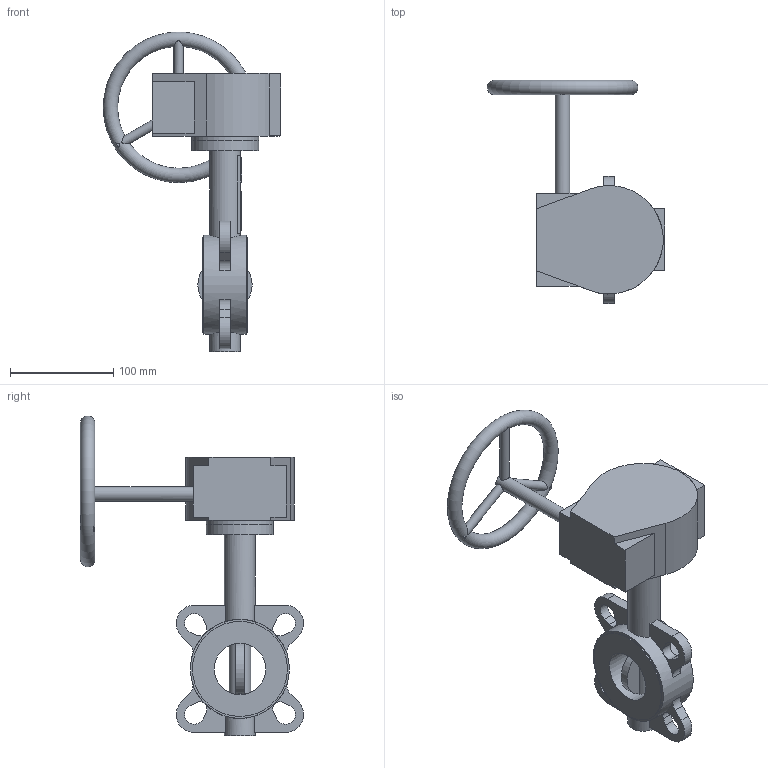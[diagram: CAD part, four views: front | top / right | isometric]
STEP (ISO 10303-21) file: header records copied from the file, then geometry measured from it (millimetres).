
FILE_DESCRIPTION(('STEP AP203'), '1');
FILE_NAME('青蜮铕 017W.ZS DN50 PN10_16 疱潴牝铕', '', ('UNSPECIFIED'), ('UNSPECIFIED'), 'ASCON STEP Converter 1.6', 'ASCON Math Kernel', '');
FILE_SCHEMA(('CONFIG_CONTROL_DESIGN'));
Length unit declared in the file: millimetre
Bounding box: 172 x 216.17 x 309.98 mm (x, y, z)
Volume: 764347 mm3; surface area: 145863.8 mm2
Topology: 1 solids, 2 shells, 647 faces, 1895 edges, 1216 vertices
Faces by surface type: cylinder 444, plane 202, torus 1
Full cylindrical faces by diameter (mm): 5 x4, 8 x4, 9 x3, 12.6 x1, 14 x1, 21 x1, 30 x2, 35 x1, 50 x1, 65 x2, 92 x2, 96 x1
Entity records: 29011 total; most frequent: CARTESIAN_POINT 5827, DIRECTION 4096, ORIENTED_EDGE 3677, EDGE_CURVE 1870, AXIS2_PLACEMENT_3D 1604, VERTEX_POINT 1215, CIRCLE 956, LINE 888
